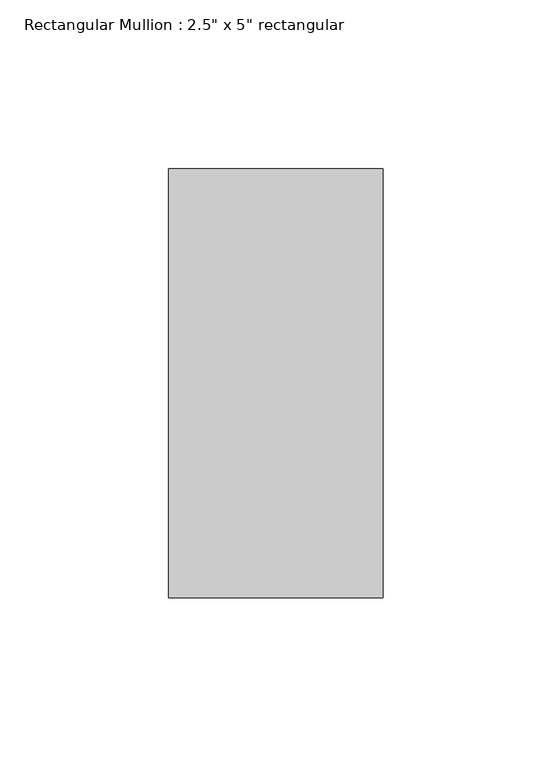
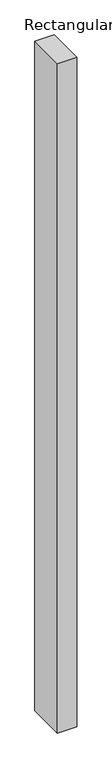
"""IFC4 building model written with IfcOpenShell, lengths in millimetres: member geometry."""

from ifc_helpers import new_model, si_unit, frame, origin, place, context, project, spatial, polyline, outline, extrude, source, transform, mapped, element, save


def member_e7ed5742(model_context):
    return source(origin(), model_context, "Body", "SweptSolid", [
        extrude(outline(polyline([(0.0, 63.5), (0.0, -63.5), (-63.5, -63.5), (-63.5, 63.5), (0.0, 63.5)])), frame((0.0, 0.0, -2311.4), z_axis=(0.0, 0.0, 1.0), x_axis=(1.0, 0.0, 0.0)), (0.0, 0.0, 1.0), 2311.4),
    ])


if __name__ == "__main__":
    model = new_model("IFC4")
    model_context = context("Model", 3, world=origin())
    ifc_project = project(units=[si_unit("LENGTHUNIT", "METRE", prefix="MILLI")], contexts=[model_context])
    site = spatial("IfcSite", under=ifc_project)
    building = spatial("IfcBuilding", under=site)
    placement = place(None, origin())
    member_shape = member_e7ed5742(model_context)
    element("IfcMember", 1, ObjectType="Rectangular Mullion : 2.5\" x 5\" rectangular", at=placement, inside=building, context=model_context, shape_type="MappedRepresentation", body=[
        mapped(member_shape, transform((0.0, 0.0, 0.0), x_axis=(1.0, 0.0, 0.0), y_axis=(0.0, 1.0, 0.0), z_axis=(0.0, 0.0, 1.0))),
    ])
    save(model, "model.ifc")
